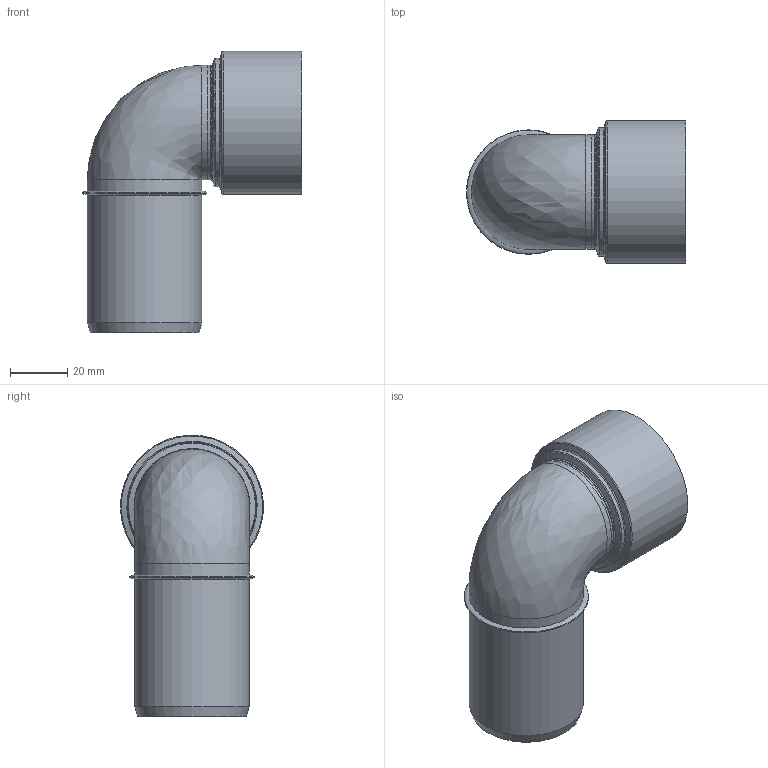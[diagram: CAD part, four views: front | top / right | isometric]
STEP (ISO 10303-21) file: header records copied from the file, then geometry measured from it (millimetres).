
FILE_DESCRIPTION(/* description */ (''),/* implementation_level */ '2;1');
FILE_NAME(/* name */ 'Z:\Geberit\Export\NewStep\390183.stp',/* time_stamp */ '2014-04-02T08:09:20+02:00',/* author */ ('ML'),/* organization */ (''),/* preprocessor_version */ 'ST-DEVELOPER v15.2',/* originating_system */ 'Autodesk Inventor 2014',/* authorisation */ '');
FILE_SCHEMA (('AUTOMOTIVE_DESIGN { 1 0 10303 214 3 1 1 }'));
Length unit declared in the file: millimetre
Products named in the file (3): 861473; 861470Muffe; 390183
Bounding box: 76.83 x 50.09 x 98.72 mm (x, y, z)
Volume: 32294.6 mm3; surface area: 32779.8 mm2
Topology: 2 solids, 2 shells, 28 faces, 55 edges, 29 vertices
Faces by surface type: cylinder 10, torus 9, cone 4, plane 4, bspline 1
Full cylindrical faces by diameter (mm): 36.15 x3, 40.15 x4, 45.15 x1, 46.15 x1, 50.15 x1
Entity records: 732 total; most frequent: CARTESIAN_POINT 168, DIRECTION 120, AXIS2_PLACEMENT_3D 60, ORIENTED_EDGE 56, EDGE_LOOP 55, FACE_BOUND 30, STYLED_ITEM 30, CIRCLE 28
